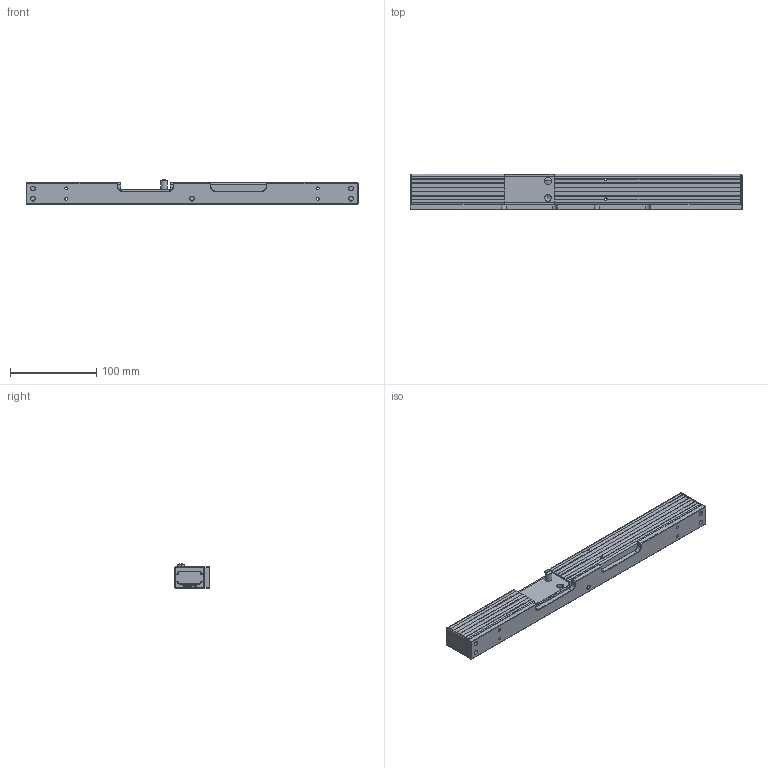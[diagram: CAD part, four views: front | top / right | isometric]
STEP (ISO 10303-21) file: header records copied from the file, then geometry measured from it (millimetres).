
FILE_DESCRIPTION((''),'2;1');
FILE_NAME('PA-ZV-UNI-2_ANTRIEB','2026-08-18T11:36:40',('dmautner'),(''),'CREO PARAMETRIC BY PTC INC, 2024273','CREO PARAMETRIC BY PTC INC, 2024273','');
FILE_SCHEMA(('AUTOMOTIVE_DESIGN { 1 0 10303 214 1 1 1 1 }'));
Products named in the file (1): PA-ZV-UNI-2_ANTRIEB
Bounding box: 385 x 41 x 28.7 mm (x, y, z)
Volume: 188259.1 mm3; surface area: 125852.9 mm2
Topology: 2 solids, 2 shells, 1155 faces, 3015 edges, 1846 vertices
Faces by surface type: cylinder 466, plane 367, bspline 104, torus 90, sphere 52, extrusion 50, cone 26
Entity records: 58495 total; most frequent: CARTESIAN_POINT 27295, ORIENTED_EDGE 6014, DIRECTION 5740, EDGE_CURVE 3007, AXIS2_PLACEMENT_3D 2097, VERTEX_POINT 1846, VECTOR 1543, LINE 1493
